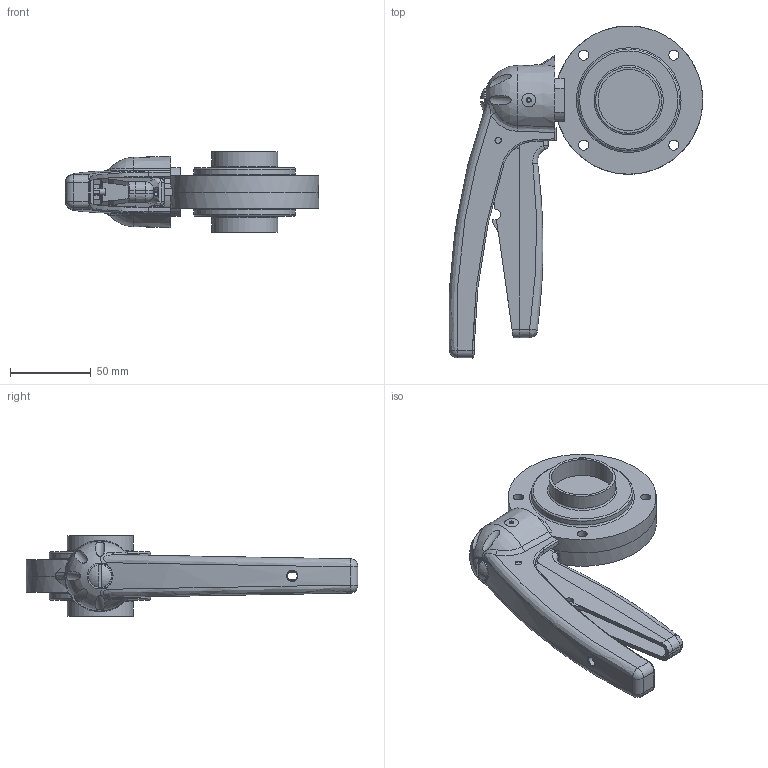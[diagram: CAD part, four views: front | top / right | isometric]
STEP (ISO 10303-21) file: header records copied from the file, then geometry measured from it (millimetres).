
FILE_DESCRIPTION(/* description */ ('VVF VALV.FARF.DN 41X1.5 SS EPDM 316 LEVA 5POS.'),/* implementation_level */ '2;1');
FILE_NAME(/* name */ 'C:\_DED_PWS\GIOR-G\DB\B\EBA\BEBACG040BEAA-00^SAGOMA.step',/* time_stamp */ '2020-05-27T10:43:41+02:00',/* author */ (''),/* organization */ (''),/* preprocessor_version */ 'ST-DEVELOPER v18',/* originating_system */ 'Autodesk Inventor 2020',/* authorisation */ '');
FILE_SCHEMA (('CONFIG_CONTROL_DESIGN'));
Length unit declared in the file: millimetre
Products named in the file (3): BEBACG040BEAA; Maniglia-5-posizioni-nuova-versione finale 01-2008- 25 - - 65; TWD006040BBA
Assembly tree (3 placements, depth 2):
  BEBACG040BEAA
    Maniglia-5-posizioni-nuova-versione finale 01-2008- 25 - - 65
    TWD006040BBA  x2
Bounding box: 157.39 x 206 x 50 mm (x, y, z)
Volume: 271493 mm3; surface area: 97103.3 mm2
Topology: 3 solids, 4 shells, 448 faces, 1203 edges, 780 vertices
Faces by surface type: plane 200, cylinder 104, bspline 81, cone 28, sphere 20, torus 15
Full cylindrical faces by diameter (mm): 4 x3, 6 x2, 6.2 x8, 6.5 x1, 13 x3, 14.5 x1, 38 x2, 41 x2, 63 x2, 92 x2
Entity records: 22702 total; most frequent: CARTESIAN_POINT 12087, ORIENTED_EDGE 2270, DIRECTION 1927, EDGE_CURVE 1135, VERTEX_POINT 731, AXIS2_PLACEMENT_3D 696, LINE 535, VECTOR 535
